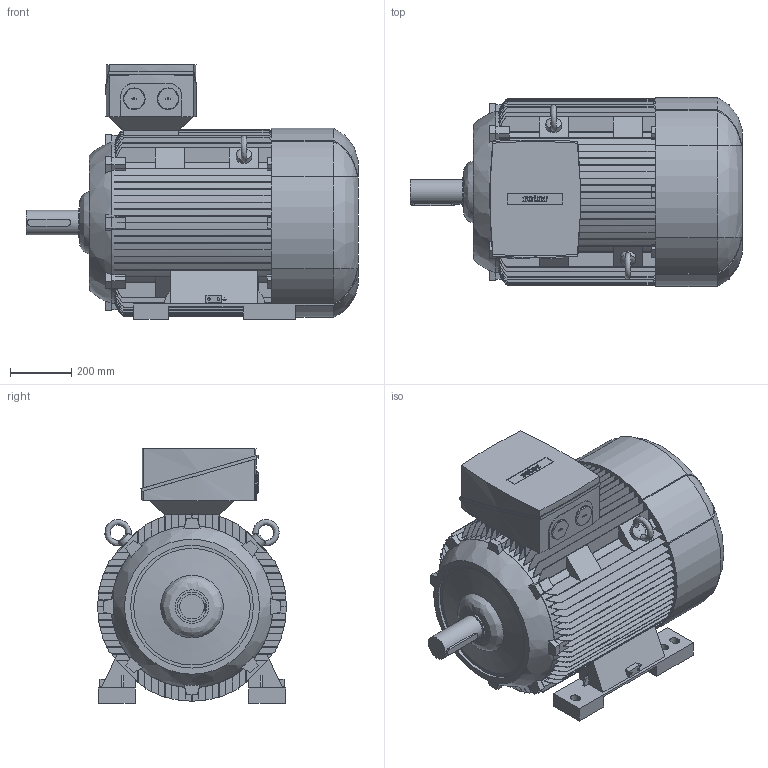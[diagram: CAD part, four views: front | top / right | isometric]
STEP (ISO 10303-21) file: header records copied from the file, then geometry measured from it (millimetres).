
FILE_DESCRIPTION (( 'STEP AP214' ), '1' );
FILE_NAME ('6RN315S06E20 IM1001.STEP', '2016-03-21T07:24:08', ( 'rotor' ), ( 'Hewlett-Packard Company' ), 'SwSTEP 2.0', 'SolidWorks 2012', '' );
FILE_SCHEMA (( 'AUTOMOTIVE_DESIGN' ));
Length unit declared in the file: millimetre
Products named in the file (1): 6RN315S06E20 IM1001
Bounding box: 1082 x 616 x 830 mm (x, y, z)
Volume: 241761531.5 mm3; surface area: 5967943.9 mm2
Topology: 7 solids, 7 shells, 1045 faces, 2987 edges, 1984 vertices
Faces by surface type: plane 689, bspline 195, cylinder 156, cone 5
Full cylindrical faces by diameter (mm): 8 x4, 50 x2, 70 x2, 80 x1, 95 x1, 400 x1
Entity records: 50983 total; most frequent: CARTESIAN_POINT 14411, ORIENTED_EDGE 5914, DIRECTION 4707, EDGE_CURVE 2957, VERTEX_POINT 1973, LINE 1819, VECTOR 1819, AXIS2_PLACEMENT_3D 1444
